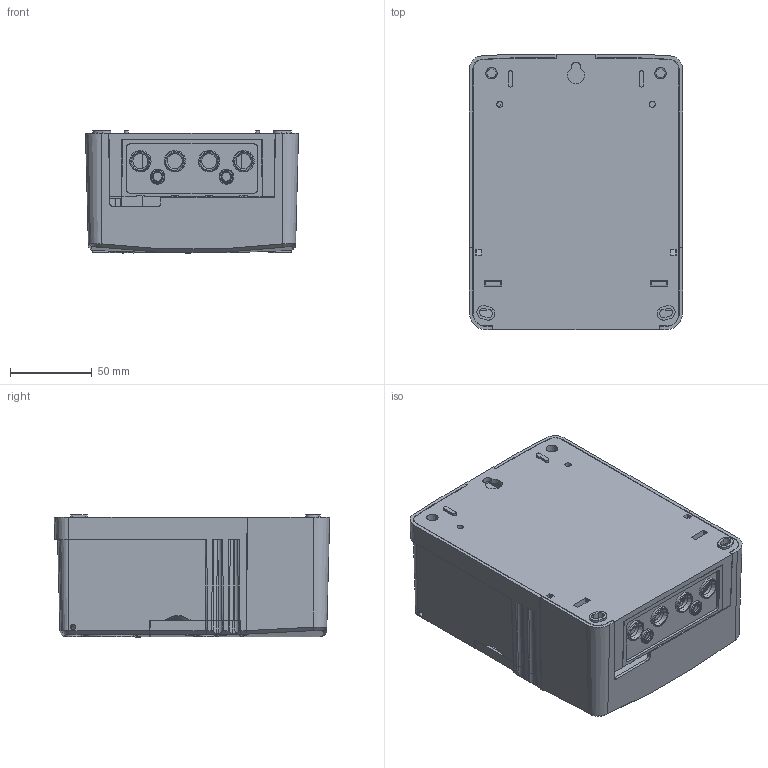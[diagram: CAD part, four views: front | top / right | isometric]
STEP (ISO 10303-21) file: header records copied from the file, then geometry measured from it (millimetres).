
FILE_DESCRIPTION(('STEP AP203'), '1');
FILE_NAME('ﾊﾂﾀﾍﾒ ST 1000-9-W', '2019-08-16T10:25:45', (' '), (''), 'ASCON STEP Converter 1.3', 'ASCON Math Kernel', '');
FILE_SCHEMA(('CONFIG_CONTROL_DESIGN'));
Length unit declared in the file: millimetre
Products named in the file (1): 3
Bounding box: 130 x 168 x 74.6 mm (x, y, z)
Volume: 244848.2 mm3; surface area: 228325.5 mm2
Topology: 8 solids, 8 shells, 1191 faces, 3251 edges, 2115 vertices
Faces by surface type: plane 689, cylinder 252, bspline 156, cone 70, torus 20, sphere 4
Full cylindrical faces by diameter (mm): 1.2 x2, 2.5 x2, 2.9 x3, 3 x4, 3.1 x3, 3.75 x4, 3.9 x2, 4.5 x2, 5.5 x2, 6 x2, 6.5 x1, 7.7 x2, 7.8 x1, 9 x2, 9.2 x4, 11.4 x1, 11.5 x1, 13 x4, 14.9 x1, 16.7 x1, 32.5 x1, 33.5 x1, 35.7 x1
Entity records: 71847 total; most frequent: CARTESIAN_POINT 43523, ORIENTED_EDGE 6474, DIRECTION 4810, EDGE_CURVE 3237, VERTEX_POINT 2111, LINE 1982, VECTOR 1982, AXIS2_PLACEMENT_3D 1414
